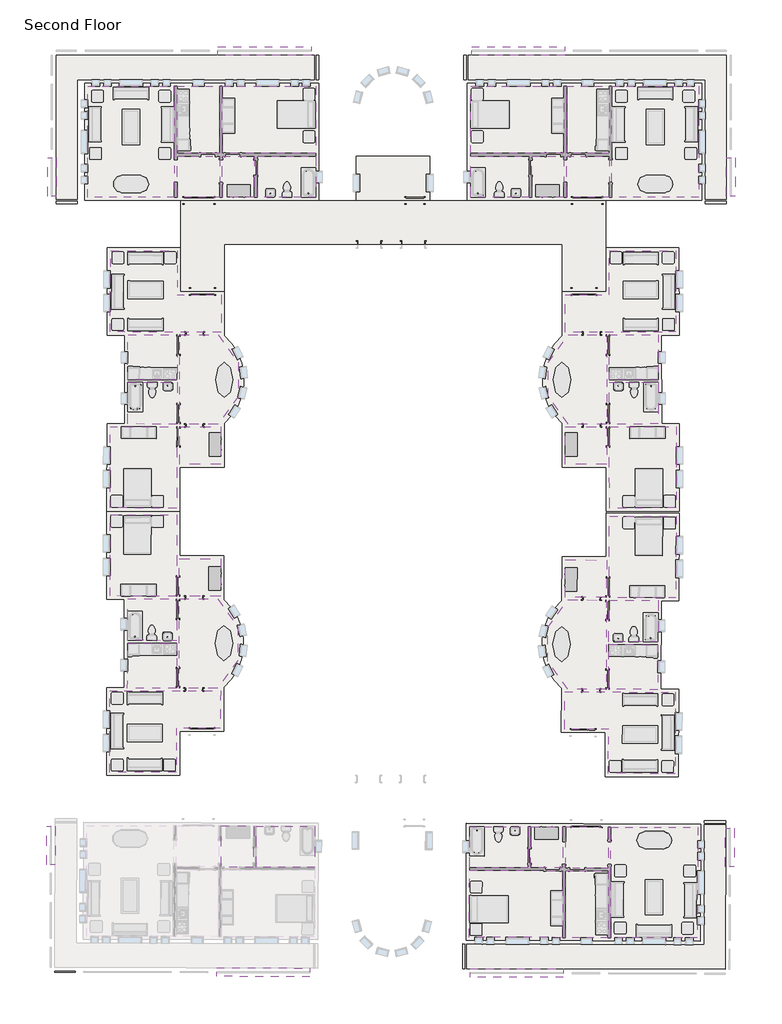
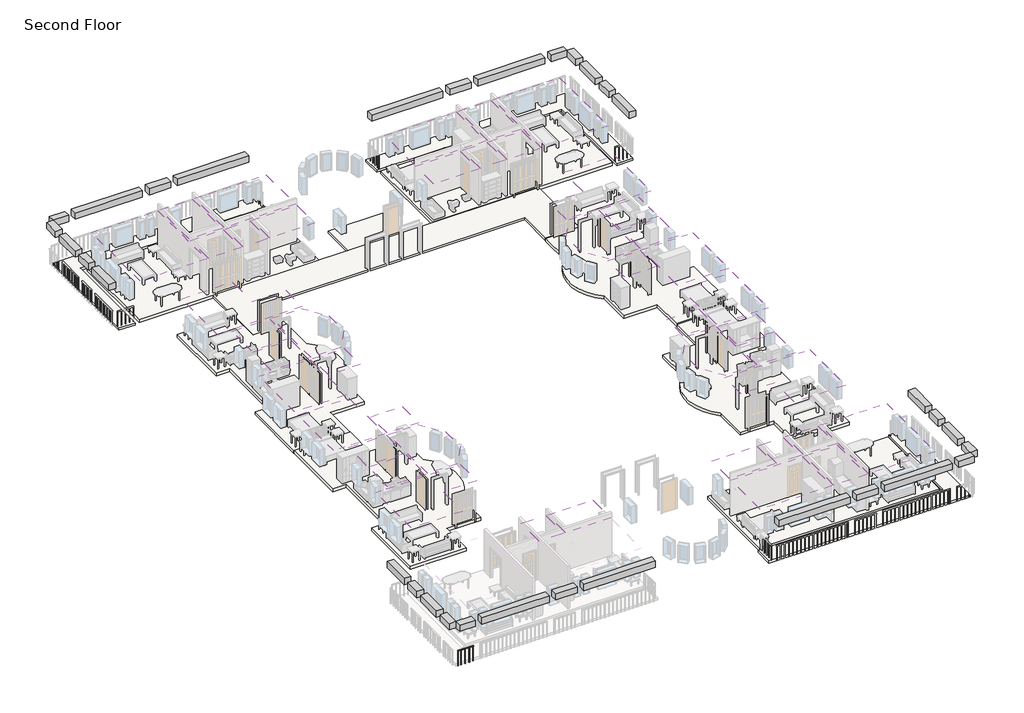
# One storey, part 3 of 8: 44 coverings, 12 slabs, 8 beams, 1 railing.
"""IFC4 building model written with IfcOpenShell, lengths in millimetres."""

from ifc_helpers import new_model, si_unit, point, frame, frame_2d, origin, place, context, project, spatial, polyline, circle_curve, trimmed, segment, composite_curve, outline, extrude, element, save

model = new_model("IFC4")

# Units and contexts
model_context = context("Model", 3, world=origin())
ifc_project = project(units=[si_unit("LENGTHUNIT", "METRE", prefix="MILLI")], contexts=[model_context])

# Site, building, storey
site = spatial("IfcSite", under=ifc_project)
building = spatial("IfcBuilding", under=site)
storey = spatial("IfcBuildingStorey", under=building, Name="Second Floor", Elevation=3048.0)

# Beams
placement = place(None, origin())
element("IfcBeam", 1, ObjectType="M_Concrete-Rectangular Beam : 450 x 450", at=placement, inside=storey, context=model_context, shape_type="SweptSolid", body=[
    extrude(outline(polyline([(-1643.3416203, 4481.1188386), (-1643.3416203, 4031.1188386), (-2693.3416203, 4031.1188386), (-2693.3416203, 4481.1188386), (-1643.3416203, 4481.1188386)])), frame((0.0, 0.0, 5646.0), z_axis=(0.0, 0.0, 1.0), x_axis=(1.0, 0.0, 0.0)), (0.0, 0.0, 1.0), 450.0),
    extrude(outline(polyline([(-14885.3416203, 4031.1188386), (-14885.3416203, 4481.1188386), (-10043.3416203, 4481.1188386), (-10043.3416203, 4031.1188386), (-14885.3416203, 4031.1188386)])), frame((0.0, 0.0, 5646.0), z_axis=(0.0, 0.0, 1.0), x_axis=(1.0, 0.0, 0.0)), (0.0, 0.0, 1.0), 450.0),
    extrude(outline(polyline([(-3143.3416203, 4481.1188386), (-3143.3416203, 4031.1188386), (-7693.3416203, 4031.1188386), (-7693.3416203, 4481.1188386), (-3143.3416203, 4481.1188386)])), frame((0.0, 0.0, 5646.0), z_axis=(0.0, 0.0, 1.0), x_axis=(1.0, 0.0, 0.0)), (0.0, 0.0, 1.0), 450.0),
    extrude(outline(polyline([(-8143.3416203, 4481.1188386), (-8143.3416203, 4031.1188386), (-9593.3416203, 4031.1188386), (-9593.3416203, 4481.1188386), (-8143.3416203, 4481.1188386)])), frame((0.0, 0.0, 5646.0), z_axis=(0.0, 0.0, 1.0), x_axis=(1.0, 0.0, 0.0)), (0.0, 0.0, 1.0), 450.0),
])
element("IfcBeam", 2, ObjectType="M_Concrete-Rectangular Beam : 450 x 450", at=placement, inside=storey, context=model_context, shape_type="SweptSolid", body=[
    extrude(outline(polyline([(-1193.3416203, -3289.8811614), (-1643.3416203, -3289.8811614), (-1643.3416203, -1295.3811614), (-1193.3416203, -1295.3811614), (-1193.3416203, -3289.8811614)])), frame((0.0, 0.0, 5646.0), z_axis=(0.0, 0.0, 1.0), x_axis=(1.0, 0.0, 0.0)), (0.0, 0.0, 1.0), 450.0),
    extrude(outline(polyline([(-1643.3416203, 4031.1188386), (-1193.3416203, 4031.1188386), (-1193.3416203, 2981.1188386), (-1643.3416203, 2981.1188386), (-1643.3416203, 4031.1188386)])), frame((0.0, 0.0, 5646.0), z_axis=(0.0, 0.0, 1.0), x_axis=(1.0, 0.0, 0.0)), (0.0, 0.0, 1.0), 450.0),
    extrude(outline(polyline([(-1643.3416203, 2531.1188386), (-1193.3416203, 2531.1188386), (-1193.3416203, 681.1188386), (-1643.3416203, 681.1188386), (-1643.3416203, 2531.1188386)])), frame((0.0, 0.0, 5646.0), z_axis=(0.0, 0.0, 1.0), x_axis=(1.0, 0.0, 0.0)), (0.0, 0.0, 1.0), 450.0),
    extrude(outline(polyline([(-1643.3416203, 231.1188386), (-1193.3416203, 231.1188386), (-1193.3416203, -845.3811614), (-1643.3416203, -845.3811614), (-1643.3416203, 231.1188386)])), frame((0.0, 0.0, 5646.0), z_axis=(0.0, 0.0, 1.0), x_axis=(1.0, 0.0, 0.0)), (0.0, 0.0, 1.0), 450.0),
])
element("IfcBeam", 3, ObjectType="M_Concrete-Rectangular Beam : 450 x 450", at=placement, inside=storey, context=model_context, shape_type="SweptSolid", body=[
    extrude(outline(polyline([(-36458.8416203, 4031.1188386), (-36458.8416203, 4481.1188386), (-35408.8416203, 4481.1188386), (-35408.8416203, 4031.1188386), (-36458.8416203, 4031.1188386)])), frame((0.0, 0.0, 5646.0), z_axis=(0.0, 0.0, 1.0), x_axis=(1.0, 0.0, 0.0)), (0.0, 0.0, 1.0), 450.0),
    extrude(outline(polyline([(-23216.8416203, 4481.1188386), (-23216.8416203, 4031.1188386), (-28058.8416203, 4031.1188386), (-28058.8416203, 4481.1188386), (-23216.8416203, 4481.1188386)])), frame((0.0, 0.0, 5646.0), z_axis=(0.0, 0.0, 1.0), x_axis=(1.0, 0.0, 0.0)), (0.0, 0.0, 1.0), 450.0),
    extrude(outline(polyline([(-34958.8416203, 4031.1188386), (-34958.8416203, 4481.1188386), (-30408.8416203, 4481.1188386), (-30408.8416203, 4031.1188386), (-34958.8416203, 4031.1188386)])), frame((0.0, 0.0, 5646.0), z_axis=(0.0, 0.0, 1.0), x_axis=(1.0, 0.0, 0.0)), (0.0, 0.0, 1.0), 450.0),
    extrude(outline(polyline([(-29958.8416203, 4031.1188386), (-29958.8416203, 4481.1188386), (-28508.8416203, 4481.1188386), (-28508.8416203, 4031.1188386), (-29958.8416203, 4031.1188386)])), frame((0.0, 0.0, 5646.0), z_axis=(0.0, 0.0, 1.0), x_axis=(1.0, 0.0, 0.0)), (0.0, 0.0, 1.0), 450.0),
])
element("IfcBeam", 4, ObjectType="M_Concrete-Rectangular Beam : 450 x 450", at=placement, inside=storey, context=model_context, shape_type="SweptSolid", body=[
    extrude(outline(polyline([(-36458.8416203, -3289.8811614), (-36908.8416203, -3289.8811614), (-36908.8416203, -1295.3811614), (-36458.8416203, -1295.3811614), (-36458.8416203, -3289.8811614)])), frame((0.0, 0.0, 5646.0), z_axis=(0.0, 0.0, 1.0), x_axis=(1.0, 0.0, 0.0)), (0.0, 0.0, 1.0), 450.0),
    extrude(outline(polyline([(-36458.8416203, 2981.1188386), (-36908.8416203, 2981.1188386), (-36908.8416203, 4031.1188386), (-36458.8416203, 4031.1188386), (-36458.8416203, 2981.1188386)])), frame((0.0, 0.0, 5646.0), z_axis=(0.0, 0.0, 1.0), x_axis=(1.0, 0.0, 0.0)), (0.0, 0.0, 1.0), 450.0),
    extrude(outline(polyline([(-36908.8416203, 2531.1188386), (-36458.8416203, 2531.1188386), (-36458.8416203, 681.1188386), (-36908.8416203, 681.1188386), (-36908.8416203, 2531.1188386)])), frame((0.0, 0.0, 5646.0), z_axis=(0.0, 0.0, 1.0), x_axis=(1.0, 0.0, 0.0)), (0.0, 0.0, 1.0), 450.0),
    extrude(outline(polyline([(-36908.8416203, 231.1188386), (-36458.8416203, 231.1188386), (-36458.8416203, -845.3811614), (-36908.8416203, -845.3811614), (-36908.8416203, 231.1188386)])), frame((0.0, 0.0, 5646.0), z_axis=(0.0, 0.0, 1.0), x_axis=(1.0, 0.0, 0.0)), (0.0, 0.0, 1.0), 450.0),
])
element("IfcBeam", 5, ObjectType="M_Concrete-Rectangular Beam : 450 x 450", at=placement, inside=storey, context=model_context, shape_type="SweptSolid", body=[
    extrude(outline(polyline([(-1712.0689607, -43451.2055858), (-1713.3716449, -43901.2037003), (-2763.3672453, -43898.1641037), (-2762.0645611, -43448.1659892), (-1712.0689607, -43451.2055858)])), frame((0.0, 0.0, 5646.0), z_axis=(0.0, 0.0, 1.0), x_axis=(1.0, 0.0, 0.0)), (0.0, 0.0, 1.0), 450.0),
    extrude(outline(polyline([(-14955.3161596, -43862.8700448), (-14954.0134754, -43412.8719303), (-10112.0337638, -43426.888813), (-10113.3364481, -43876.8869274), (-14955.3161596, -43862.8700448)])), frame((0.0, 0.0, 5646.0), z_axis=(0.0, 0.0, 1.0), x_axis=(1.0, 0.0, 0.0)), (0.0, 0.0, 1.0), 450.0),
    extrude(outline(polyline([(-3212.0626755, -43446.863305), (-3213.3653598, -43896.8614194), (-7763.3462948, -43883.6898341), (-7762.0436106, -43433.6917196), (-3212.0626755, -43446.863305)])), frame((0.0, 0.0, 5646.0), z_axis=(0.0, 0.0, 1.0), x_axis=(1.0, 0.0, 0.0)), (0.0, 0.0, 1.0), 450.0),
    extrude(outline(polyline([(-8212.041725, -43432.3890354), (-8213.3444093, -43882.3871498), (-9663.3383336, -43878.1896117), (-9662.0356494, -43428.1914972), (-8212.041725, -43432.3890354)])), frame((0.0, 0.0, 5646.0), z_axis=(0.0, 0.0, 1.0), x_axis=(1.0, 0.0, 0.0)), (0.0, 0.0, 1.0), 450.0),
])
element("IfcBeam", 6, ObjectType="M_Concrete-Rectangular Beam : 450 x 450", at=placement, inside=storey, context=model_context, shape_type="SweptSolid", body=[
    extrude(outline(polyline([(-1690.8757352, -36130.2362615), (-1240.8776207, -36131.5389458), (-1246.6514068, -38126.0305886), (-1696.6495213, -38124.7279044), (-1690.8757352, -36130.2362615)])), frame((0.0, 0.0, 5646.0), z_axis=(0.0, 0.0, 1.0), x_axis=(1.0, 0.0, 0.0)), (0.0, 0.0, 1.0), 450.0),
    extrude(outline(polyline([(-1709.0293641, -42401.2099854), (-1259.0312496, -42402.5126697), (-1262.0708462, -43452.5082701), (-1712.0689607, -43451.2055858), (-1709.0293641, -42401.2099854)])), frame((0.0, 0.0, 5646.0), z_axis=(0.0, 0.0, 1.0), x_axis=(1.0, 0.0, 0.0)), (0.0, 0.0, 1.0), 450.0),
    extrude(outline(polyline([(-1257.7285653, -41952.5145552), (-1707.7266798, -41951.211871), (-1702.3712001, -40101.2196227), (-1252.3730856, -40102.5223069), (-1257.7285653, -41952.5145552)])), frame((0.0, 0.0, 5646.0), z_axis=(0.0, 0.0, 1.0), x_axis=(1.0, 0.0, 0.0)), (0.0, 0.0, 1.0), 450.0),
    extrude(outline(polyline([(-1251.0704013, -39652.5241925), (-1701.0685158, -39651.2215082), (-1697.9522056, -38574.7260188), (-1247.9540911, -38576.0287031), (-1251.0704013, -39652.5241925)])), frame((0.0, 0.0, 5646.0), z_axis=(0.0, 0.0, 1.0), x_axis=(1.0, 0.0, 0.0)), (0.0, 0.0, 1.0), 450.0),
])
element("IfcBeam", 7, ObjectType="M_Concrete-Rectangular Beam : 450 x 450", at=placement, inside=storey, context=model_context, shape_type="SweptSolid", body=[
    extrude(outline(polyline([(-36528.7257646, -43800.4179138), (-36527.4230803, -43350.4197994), (-35477.4274799, -43353.459396), (-35478.7301642, -43803.4575104), (-36528.7257646, -43800.4179138)])), frame((0.0, 0.0, 5646.0), z_axis=(0.0, 0.0, 1.0), x_axis=(1.0, 0.0, 0.0)), (0.0, 0.0, 1.0), 450.0),
    extrude(outline(polyline([(-23285.4785656, -43388.7534549), (-23286.7812498, -43838.7515694), (-28128.7609614, -43824.7346867), (-28127.4582771, -43374.7365723), (-23285.4785656, -43388.7534549)])), frame((0.0, 0.0, 5646.0), z_axis=(0.0, 0.0, 1.0), x_axis=(1.0, 0.0, 0.0)), (0.0, 0.0, 1.0), 450.0),
    extrude(outline(polyline([(-35028.7320497, -43804.7601947), (-35027.4293654, -43354.7620803), (-30477.4484304, -43367.9336656), (-30478.7511147, -43817.93178), (-35028.7320497, -43804.7601947)])), frame((0.0, 0.0, 5646.0), z_axis=(0.0, 0.0, 1.0), x_axis=(1.0, 0.0, 0.0)), (0.0, 0.0, 1.0), 450.0),
    extrude(outline(polyline([(-30028.7530002, -43819.2344643), (-30027.4503159, -43369.2363498), (-28577.4563916, -43373.433888), (-28578.7590758, -43823.4320025), (-30028.7530002, -43819.2344643)])), frame((0.0, 0.0, 5646.0), z_axis=(0.0, 0.0, 1.0), x_axis=(1.0, 0.0, 0.0)), (0.0, 0.0, 1.0), 450.0),
])
element("IfcBeam", 8, ObjectType="M_Concrete-Rectangular Beam : 450 x 450", at=placement, inside=storey, context=model_context, shape_type="SweptSolid", body=[
    extrude(outline(polyline([(-36956.2279692, -36028.1477908), (-36506.2298548, -36029.4504751), (-36512.0036409, -38023.9421179), (-36962.0017554, -38022.6394337), (-36956.2279692, -36028.1477908)])), frame((0.0, 0.0, 5646.0), z_axis=(0.0, 0.0, 1.0), x_axis=(1.0, 0.0, 0.0)), (0.0, 0.0, 1.0), 450.0),
    extrude(outline(polyline([(-36974.3815981, -42299.1215147), (-36524.3834837, -42300.424199), (-36527.4230803, -43350.4197994), (-36977.4211948, -43349.1171151), (-36974.3815981, -42299.1215147)])), frame((0.0, 0.0, 5646.0), z_axis=(0.0, 0.0, 1.0), x_axis=(1.0, 0.0, 0.0)), (0.0, 0.0, 1.0), 450.0),
    extrude(outline(polyline([(-36523.0807994, -41850.4260845), (-36973.0789139, -41849.1234003), (-36967.7234341, -39999.1311519), (-36517.7253197, -40000.4338362), (-36523.0807994, -41850.4260845)])), frame((0.0, 0.0, 5646.0), z_axis=(0.0, 0.0, 1.0), x_axis=(1.0, 0.0, 0.0)), (0.0, 0.0, 1.0), 450.0),
    extrude(outline(polyline([(-36516.4226354, -39550.4357218), (-36966.4207499, -39549.1330375), (-36963.3044396, -38472.6375481), (-36513.3063252, -38473.9402324), (-36516.4226354, -39550.4357218)])), frame((0.0, 0.0, 5646.0), z_axis=(0.0, 0.0, 1.0), x_axis=(1.0, 0.0, 0.0)), (0.0, 0.0, 1.0), 450.0),
])

# Coverings
element("IfcCovering", 9, ObjectType="Plain", at=placement, inside=storey, context=model_context, shape_type="SweptSolid", body=[
    extrude(outline(polyline([(-14935.3416203, 2406.1188386), (-10086.8416203, 2406.1188386), (-10086.8416203, -1070.3811614), (-14935.3416203, -1070.3811614), (-14935.3416203, 2406.1188386)])), frame((0.0, 0.0, 5638.0), z_axis=(0.0, 0.0, 1.0), x_axis=(1.0, 0.0, 0.0)), (0.0, 0.0, 1.0), 57.0),
])
element("IfcCovering", 10, ObjectType="Plain", at=placement, inside=storey, context=model_context, shape_type="SweptSolid", body=[
    extrude(outline(polyline([(-9951.3416203, -1070.3811614), (-9951.3416203, 2406.1188386), (-7733.0916203, 2406.1188386), (-7733.0916203, -1070.3811614), (-9951.3416203, -1070.3811614)])), frame((0.0, 0.0, 5638.0), z_axis=(0.0, 0.0, 1.0), x_axis=(1.0, 0.0, 0.0)), (0.0, 0.0, 1.0), 57.0),
])
element("IfcCovering", 11, ObjectType="Plain", at=placement, inside=storey, context=model_context, shape_type="SweptSolid", body=[
    extrude(outline(polyline([(-7597.5916203, -3339.8811614), (-7597.5916203, 2406.1188386), (-3093.3416203, 2406.1188386), (-3093.3416203, -3339.8811614), (-7597.5916203, -3339.8811614)])), frame((0.0, 0.0, 5638.0), z_axis=(0.0, 0.0, 1.0), x_axis=(1.0, 0.0, 0.0)), (0.0, 0.0, 1.0), 57.0),
])
element("IfcCovering", 12, ObjectType="Plain", at=placement, inside=storey, context=model_context, shape_type="SweptSolid", body=[
    extrude(outline(polyline([(-7733.0916203, -3339.8811614), (-9951.3416203, -3339.8811614), (-9951.3416203, -1205.8811614), (-7733.0916203, -1205.8811614), (-7733.0916203, -3339.8811614)])), frame((0.0, 0.0, 5638.0), z_axis=(0.0, 0.0, 1.0), x_axis=(1.0, 0.0, 0.0)), (0.0, 0.0, 1.0), 57.0),
])
element("IfcCovering", 13, ObjectType="Plain", at=placement, inside=storey, context=model_context, shape_type="SweptSolid", body=[
    extrude(outline(polyline([(-11887.3416203, -1205.8811614), (-11887.3416203, -3339.8811614), (-14935.3416203, -3339.8811614), (-14935.3416203, -1205.8811614), (-11887.3416203, -1205.8811614)])), frame((0.0, 0.0, 5638.0), z_axis=(0.0, 0.0, 1.0), x_axis=(1.0, 0.0, 0.0)), (0.0, 0.0, 1.0), 57.0),
])
element("IfcCovering", 14, ObjectType="Plain", at=placement, inside=storey, context=model_context, shape_type="SweptSolid", body=[
    extrude(outline(polyline([(-10086.8416203, -3339.8811614), (-11751.8416203, -3339.8811614), (-11751.8416203, -1205.8811614), (-10086.8416203, -1205.8811614), (-10086.8416203, -3339.8811614)])), frame((0.0, 0.0, 5638.0), z_axis=(0.0, 0.0, 1.0), x_axis=(1.0, 0.0, 0.0)), (0.0, 0.0, 1.0), 57.0),
])
element("IfcCovering", 15, ObjectType="Plain", at=placement, inside=storey, context=model_context, shape_type="SweptSolid", body=[
    extrude(outline(polyline([(-7719.603401, -17382.7647995), (-7726.8533934, -17382.7752934), (-7729.9194088, -15264.5275123), (-5002.0722663, -15260.5791445), (-5002.0617724, -15267.829137), (-4262.662547, -15266.7589083), (-4256.5515039, -19488.7544857), (-7716.5478795, -19493.7625882), (-7719.603401, -17382.7647995)])), frame((0.0, 0.0, 5639.0), z_axis=(0.0, 0.0, 1.0), x_axis=(1.0, 0.0, 0.0)), (0.0, 0.0, 1.0), 57.0),
])
element("IfcCovering", 16, ObjectType="Plain", at=placement, inside=storey, context=model_context, shape_type="SweptSolid", body=[
    extrude(outline(polyline([(-7730.1155353, -15129.0276542), (-7733.2504483, -12963.179923), (-5180.4031225, -12959.4848553), (-5177.2682095, -15125.3325865), (-7730.1155353, -15129.0276542)])), frame((0.0, 0.0, 5639.0), z_axis=(0.0, 0.0, 1.0), x_axis=(1.0, 0.0, 0.0)), (0.0, 0.0, 1.0), 57.0),
])
element("IfcCovering", 17, ObjectType="Plain", at=placement, inside=storey, context=model_context, shape_type="SweptSolid", body=[
    extrude(outline(polyline([(-7733.4465749, -12827.680065), (-7736.8265375, -10492.5325111), (-5183.9792116, -10488.8374433), (-5180.599249, -12823.9849972), (-7733.4465749, -12827.680065)])), frame((0.0, 0.0, 5639.0), z_axis=(0.0, 0.0, 1.0), x_axis=(1.0, 0.0, 0.0)), (0.0, 0.0, 1.0), 57.0),
])
element("IfcCovering", 18, ObjectType="Plain", at=placement, inside=storey, context=model_context, shape_type="SweptSolid", body=[
    extrude(outline(polyline([(-10015.770277, -10360.3309807), (-10018.5829924, -8417.0830163), (-7732.585387, -8413.7741948), (-7735.8942085, -6127.7765894), (-4275.8978329, -6122.7684869), (-4269.7867899, -10344.7640643), (-5009.1860154, -10345.8342929), (-5009.1755215, -10353.0842853), (-10015.770277, -10360.3309807)])), frame((0.0, 0.0, 5639.0), z_axis=(0.0, 0.0, 1.0), x_axis=(1.0, 0.0, 0.0)), (0.0, 0.0, 1.0), 57.0),
])
element("IfcCovering", 19, ObjectType="Plain", at=placement, inside=storey, context=model_context, shape_type="SweptSolid", body=[
    extrude(outline(composite_curve([segment(polyline([(-9871.5226854, -10495.6223343), (-7872.3263955, -10492.7286377), (-7865.6153934, -15129.2237808), (-9864.8116833, -15132.1174775)]), True, "CONTINUOUS"), segment(trimmed(circle_curve(frame_2d((-8171.1580789, -12811.413604)), 2873.0), [point((-9864.8116833, -15132.1174775))], [point((-9871.5226854, -10495.6223343))], False, "CARTESIAN"), True, "CONTINUOUS")], self_intersect=False)), frame((0.0, 0.0, 5639.0), z_axis=(0.0, 0.0, 1.0), x_axis=(1.0, 0.0, 0.0)), (0.0, 0.0, 1.0), 57.0),
])
element("IfcCovering", 20, ObjectType="Plain", at=placement, inside=storey, context=model_context, shape_type="SweptSolid", body=[
    extrude(outline(polyline([(-10008.6670217, -15267.8258399), (-7865.4192668, -15264.7236389), (-7862.6065515, -17207.9716033), (-10005.8543064, -17211.0738043), (-10008.6670217, -15267.8258399)])), frame((0.0, 0.0, 5639.0), z_axis=(0.0, 0.0, 1.0), x_axis=(1.0, 0.0, 0.0)), (0.0, 0.0, 1.0), 57.0),
])
element("IfcCovering", 21, ObjectType="Plain", at=placement, inside=storey, context=model_context, shape_type="SweptSolid", body=[
    extrude(outline(polyline([(-22978.8416203, 2406.1188386), (-22978.8416203, -1070.3811614), (-27827.3416203, -1070.3811614), (-27827.3416203, 2406.1188386), (-22978.8416203, 2406.1188386)])), frame((0.0, 0.0, 5638.0), z_axis=(0.0, 0.0, 1.0), x_axis=(1.0, 0.0, 0.0)), (0.0, 0.0, 1.0), 57.0),
])
element("IfcCovering", 22, ObjectType="Plain", at=placement, inside=storey, context=model_context, shape_type="SweptSolid", body=[
    extrude(outline(polyline([(-27962.8416203, -1070.3811614), (-30181.0916203, -1070.3811614), (-30181.0916203, 2406.1188386), (-27962.8416203, 2406.1188386), (-27962.8416203, -1070.3811614)])), frame((0.0, 0.0, 5638.0), z_axis=(0.0, 0.0, 1.0), x_axis=(1.0, 0.0, 0.0)), (0.0, 0.0, 1.0), 57.0),
])
element("IfcCovering", 23, ObjectType="Plain", at=placement, inside=storey, context=model_context, shape_type="SweptSolid", body=[
    extrude(outline(polyline([(-30316.5916203, -3339.8811614), (-34820.8416203, -3339.8811614), (-34820.8416203, 2406.1188386), (-30316.5916203, 2406.1188386), (-30316.5916203, -3339.8811614)])), frame((0.0, 0.0, 5638.0), z_axis=(0.0, 0.0, 1.0), x_axis=(1.0, 0.0, 0.0)), (0.0, 0.0, 1.0), 57.0),
])
element("IfcCovering", 24, ObjectType="Plain", at=placement, inside=storey, context=model_context, shape_type="SweptSolid", body=[
    extrude(outline(polyline([(-30181.0916203, -3339.8811614), (-30181.0916203, -1205.8811614), (-27962.8416203, -1205.8811614), (-27962.8416203, -3339.8811614), (-30181.0916203, -3339.8811614)])), frame((0.0, 0.0, 5638.0), z_axis=(0.0, 0.0, 1.0), x_axis=(1.0, 0.0, 0.0)), (0.0, 0.0, 1.0), 57.0),
])
element("IfcCovering", 25, ObjectType="Plain", at=placement, inside=storey, context=model_context, shape_type="SweptSolid", body=[
    extrude(outline(polyline([(-26026.8416203, -1205.8811614), (-22978.8416203, -1205.8811614), (-22978.8416203, -3339.8811614), (-26026.8416203, -3339.8811614), (-26026.8416203, -1205.8811614)])), frame((0.0, 0.0, 5638.0), z_axis=(0.0, 0.0, 1.0), x_axis=(1.0, 0.0, 0.0)), (0.0, 0.0, 1.0), 57.0),
])
element("IfcCovering", 26, ObjectType="Plain", at=placement, inside=storey, context=model_context, shape_type="SweptSolid", body=[
    extrude(outline(polyline([(-27827.3416203, -3339.8811614), (-27827.3416203, -1205.8811614), (-26162.3416203, -1205.8811614), (-26162.3416203, -3339.8811614), (-27827.3416203, -3339.8811614)])), frame((0.0, 0.0, 5638.0), z_axis=(0.0, 0.0, 1.0), x_axis=(1.0, 0.0, 0.0)), (0.0, 0.0, 1.0), 57.0),
])
element("IfcCovering", 27, ObjectType="Plain", at=placement, inside=storey, context=model_context, shape_type="SweptSolid", body=[
    extrude(outline(polyline([(-30194.5798396, -17382.7647995), (-30197.6353611, -19493.7625882), (-33657.6317367, -19488.7544857), (-33651.5206937, -15266.7589083), (-32912.1214682, -15267.829137), (-32912.1109744, -15260.5791445), (-30184.2638319, -15264.5275123), (-30187.3298472, -17382.7752934), (-30194.5798396, -17382.7647995)])), frame((0.0, 0.0, 5639.0), z_axis=(0.0, 0.0, 1.0), x_axis=(1.0, 0.0, 0.0)), (0.0, 0.0, 1.0), 57.0),
])
element("IfcCovering", 28, ObjectType="Plain", at=placement, inside=storey, context=model_context, shape_type="SweptSolid", body=[
    extrude(outline(polyline([(-30184.0677053, -15129.0276542), (-32736.9150311, -15125.3325865), (-32733.7801182, -12959.4848553), (-30180.9327923, -12963.179923), (-30184.0677053, -15129.0276542)])), frame((0.0, 0.0, 5639.0), z_axis=(0.0, 0.0, 1.0), x_axis=(1.0, 0.0, 0.0)), (0.0, 0.0, 1.0), 57.0),
])
element("IfcCovering", 29, ObjectType="Plain", at=placement, inside=storey, context=model_context, shape_type="SweptSolid", body=[
    extrude(outline(polyline([(-30180.7366658, -12827.680065), (-32733.5839916, -12823.9849972), (-32730.204029, -10488.8374433), (-30177.3567032, -10492.5325111), (-30180.7366658, -12827.680065)])), frame((0.0, 0.0, 5639.0), z_axis=(0.0, 0.0, 1.0), x_axis=(1.0, 0.0, 0.0)), (0.0, 0.0, 1.0), 57.0),
])
element("IfcCovering", 30, ObjectType="Plain", at=placement, inside=storey, context=model_context, shape_type="SweptSolid", body=[
    extrude(outline(polyline([(-27898.4129637, -10360.3309807), (-32905.0077191, -10353.0842853), (-32904.9972253, -10345.8342929), (-33644.3964507, -10344.7640643), (-33638.2854077, -6122.7684869), (-30178.2890322, -6127.7765894), (-30181.5978537, -8413.7741948), (-27895.6002483, -8417.0830163), (-27898.4129637, -10360.3309807)])), frame((0.0, 0.0, 5639.0), z_axis=(0.0, 0.0, 1.0), x_axis=(1.0, 0.0, 0.0)), (0.0, 0.0, 1.0), 57.0),
])
element("IfcCovering", 31, ObjectType="Plain", at=placement, inside=storey, context=model_context, shape_type="SweptSolid", body=[
    extrude(outline(composite_curve([segment(trimmed(circle_curve(frame_2d((-29743.0251618, -12811.413604)), 2873.0), [point((-28042.6605552, -10495.6223343))], [point((-28049.3715573, -15132.1174775))], False, "CARTESIAN"), True, "CONTINUOUS"), segment(polyline([(-28049.3715573, -15132.1174775), (-30048.5678472, -15129.2237808), (-30041.8568451, -10492.7286377), (-28042.6605552, -10495.6223343)]), True, "CONTINUOUS")], self_intersect=False)), frame((0.0, 0.0, 5639.0), z_axis=(0.0, 0.0, 1.0), x_axis=(1.0, 0.0, 0.0)), (0.0, 0.0, 1.0), 57.0),
])
element("IfcCovering", 32, ObjectType="Plain", at=placement, inside=storey, context=model_context, shape_type="SweptSolid", body=[
    extrude(outline(polyline([(-27905.5162189, -15267.8258399), (-27908.3289343, -17211.0738043), (-30051.5766892, -17207.9716033), (-30048.7639738, -15264.7236389), (-27905.5162189, -15267.8258399)])), frame((0.0, 0.0, 5639.0), z_axis=(0.0, 0.0, 1.0), x_axis=(1.0, 0.0, 0.0)), (0.0, 0.0, 1.0), 57.0),
])
element("IfcCovering", 33, ObjectType="Plain", at=placement, inside=storey, context=model_context, shape_type="SweptSolid", body=[
    extrude(outline(polyline([(-14999.3091283, -41787.7339965), (-14989.2451686, -38311.2485634), (-10140.7654843, -38325.2842626), (-10150.829444, -41801.7696957), (-14999.3091283, -41787.7339965)])), frame((0.0, 0.0, 5638.0), z_axis=(0.0, 0.0, 1.0), x_axis=(1.0, 0.0, 0.0)), (0.0, 0.0, 1.0), 57.0),
])
element("IfcCovering", 34, ObjectType="Plain", at=placement, inside=storey, context=model_context, shape_type="SweptSolid", body=[
    extrude(outline(polyline([(-10005.2660521, -38325.6765153), (-7787.0253468, -38332.098025), (-7797.0893064, -41808.5834581), (-10015.3300117, -41802.1619484), (-10005.2660521, -38325.6765153)])), frame((0.0, 0.0, 5638.0), z_axis=(0.0, 0.0, 1.0), x_axis=(1.0, 0.0, 0.0)), (0.0, 0.0, 1.0), 57.0),
])
element("IfcCovering", 35, ObjectType="Plain", at=placement, inside=storey, context=model_context, shape_type="SweptSolid", body=[
    extrude(outline(polyline([(-7644.9560436, -36062.9997871), (-3140.7249168, -36076.0389329), (-3157.3587474, -41822.0148566), (-7661.5898742, -41808.9757108), (-7644.9560436, -36062.9997871)])), frame((0.0, 0.0, 5638.0), z_axis=(0.0, 0.0, 1.0), x_axis=(1.0, 0.0, 0.0)), (0.0, 0.0, 1.0), 57.0),
])
element("IfcCovering", 36, ObjectType="Plain", at=placement, inside=storey, context=model_context, shape_type="SweptSolid", body=[
    extrude(outline(polyline([(-7780.4554758, -36062.6075344), (-7786.6330941, -38196.5985928), (-10004.8737994, -38190.1770831), (-9998.6961811, -36056.1860247), (-7780.4554758, -36062.6075344)])), frame((0.0, 0.0, 5638.0), z_axis=(0.0, 0.0, 1.0), x_axis=(1.0, 0.0, 0.0)), (0.0, 0.0, 1.0), 57.0),
])
element("IfcCovering", 37, ObjectType="Plain", at=placement, inside=storey, context=model_context, shape_type="SweptSolid", body=[
    extrude(outline(polyline([(-11940.8656874, -38184.5726459), (-14988.8529159, -38175.7491311), (-14982.6752977, -36041.7580728), (-11934.6880691, -36050.5815875), (-11940.8656874, -38184.5726459)])), frame((0.0, 0.0, 5638.0), z_axis=(0.0, 0.0, 1.0), x_axis=(1.0, 0.0, 0.0)), (0.0, 0.0, 1.0), 57.0),
])
element("IfcCovering", 38, ObjectType="Plain", at=placement, inside=storey, context=model_context, shape_type="SweptSolid", body=[
    extrude(outline(polyline([(-10134.1956134, -36055.793772), (-10140.3732316, -38189.7848304), (-11805.3662551, -38184.9648986), (-11799.1886369, -36050.9738403), (-10134.1956134, -36055.793772)])), frame((0.0, 0.0, 5638.0), z_axis=(0.0, 0.0, 1.0), x_axis=(1.0, 0.0, 0.0)), (0.0, 0.0, 1.0), 57.0),
])
element("IfcCovering", 39, ObjectType="Plain", at=placement, inside=storey, context=model_context, shape_type="SweptSolid", body=[
    extrude(outline(polyline([(-7726.3152164, -22019.8217838), (-7717.1486774, -19908.8416857), (-4257.1812973, -19923.8659512), (-4275.5143752, -24145.8261474), (-5014.9074043, -24142.6154706), (-5014.9388858, -24149.8654022), (-7742.7631684, -24138.020332), (-7733.565148, -22019.7903023), (-7726.3152164, -22019.8217838)])), frame((0.0, 0.0, 5639.0), z_axis=(0.0, 0.0, 1.0), x_axis=(1.0, 0.0, 0.0)), (0.0, 0.0, 1.0), 57.0),
])
element("IfcCovering", 40, ObjectType="Plain", at=placement, inside=storey, context=model_context, shape_type="SweptSolid", body=[
    extrude(outline(polyline([(-7743.3515464, -24273.5190546), (-5190.525614, -24284.6042269), (-5199.9303266, -26450.4338079), (-7752.756259, -26439.3486356), (-7743.3515464, -24273.5190546)])), frame((0.0, 0.0, 5639.0), z_axis=(0.0, 0.0, 1.0), x_axis=(1.0, 0.0, 0.0)), (0.0, 0.0, 1.0), 57.0),
])
element("IfcCovering", 41, ObjectType="Plain", at=placement, inside=storey, context=model_context, shape_type="SweptSolid", body=[
    extrude(outline(polyline([(-7753.3446371, -26574.8473581), (-5200.5187046, -26585.9325305), (-5210.6585641, -28921.0605153), (-7763.4844965, -28909.975343), (-7753.3446371, -26574.8473581)])), frame((0.0, 0.0, 5639.0), z_axis=(0.0, 0.0, 1.0), x_axis=(1.0, 0.0, 0.0)), (0.0, 0.0, 1.0), 57.0),
])
element("IfcCovering", 42, ObjectType="Plain", at=placement, inside=storey, context=model_context, shape_type="SweptSolid", body=[
    extrude(outline(polyline([(-10042.8013912, -29035.5791103), (-5036.248592, -29057.3191357), (-5036.2800734, -29064.5690674), (-4296.8870443, -29067.7797442), (-4315.2201221, -33289.7399404), (-7775.1875022, -33274.7156749), (-7765.2610655, -30988.7372266), (-10051.2395137, -30978.8107899), (-10042.8013912, -29035.5791103)])), frame((0.0, 0.0, 5639.0), z_axis=(0.0, 0.0, 1.0), x_axis=(1.0, 0.0, 0.0)), (0.0, 0.0, 1.0), 57.0),
])
element("IfcCovering", 43, ObjectType="Plain", at=placement, inside=storey, context=model_context, shape_type="SweptSolid", body=[
    extrude(outline(composite_curve([segment(trimmed(circle_curve(frame_2d((-8191.1013961, -26589.84664)), 2873.0), [point((-9898.1627553, -28900.7058992))], [point((-9878.0298052, -24264.2496108))], False, "CARTESIAN"), True, "CONTINUOUS"), segment(polyline([(-9878.0298052, -24264.2496108), (-7878.850269, -24272.9306765), (-7898.9832191, -28909.3869649), (-9898.1627553, -28900.7058992)]), True, "CONTINUOUS")], self_intersect=False)), frame((0.0, 0.0, 5639.0), z_axis=(0.0, 0.0, 1.0), x_axis=(1.0, 0.0, 0.0)), (0.0, 0.0, 1.0), 57.0),
])
element("IfcCovering", 44, ObjectType="Plain", at=placement, inside=storey, context=model_context, shape_type="SweptSolid", body=[
    extrude(outline(polyline([(-10021.491685, -24128.1253768), (-10013.0535624, -22184.8936972), (-7869.8237684, -22194.2002744), (-7878.2618909, -24137.431954), (-10021.491685, -24128.1253768)])), frame((0.0, 0.0, 5639.0), z_axis=(0.0, 0.0, 1.0), x_axis=(1.0, 0.0, 0.0)), (0.0, 0.0, 1.0), 57.0),
])
element("IfcCovering", 45, ObjectType="Plain", at=placement, inside=storey, context=model_context, shape_type="SweptSolid", body=[
    extrude(outline(polyline([(-26080.3064415, -38143.640859), (-26074.1288232, -36009.6498006), (-23026.1415946, -36018.4733154), (-23032.3192129, -38152.4643737), (-26080.3064415, -38143.640859)])), frame((0.0, 0.0, 5638.0), z_axis=(0.0, 0.0, 1.0), x_axis=(1.0, 0.0, 0.0)), (0.0, 0.0, 1.0), 57.0),
])
element("IfcCovering", 46, ObjectType="Plain", at=placement, inside=storey, context=model_context, shape_type="SweptSolid", body=[
    extrude(outline(polyline([(-27874.6212789, -36004.4376162), (-26209.6282554, -36009.2575479), (-26215.8058737, -38143.2486063), (-27880.7988972, -38138.4286745), (-27874.6212789, -36004.4376162)])), frame((0.0, 0.0, 5638.0), z_axis=(0.0, 0.0, 1.0), x_axis=(1.0, 0.0, 0.0)), (0.0, 0.0, 1.0), 57.0),
])
element("IfcCovering", 47, ObjectType="Plain", at=placement, inside=storey, context=model_context, shape_type="SweptSolid", body=[
    extrude(outline(polyline([(-30201.1974826, -21954.7600102), (-30193.9474902, -21954.7705041), (-30197.0135056, -24073.0182852), (-32924.8606481, -24069.0699174), (-32924.8501542, -24061.819925), (-33664.2493797, -24060.7496964), (-33658.1383367, -19838.7541191), (-30198.1419611, -19843.7622216), (-30201.1974826, -21954.7600102)])), frame((0.0, 0.0, 5639.0), z_axis=(0.0, 0.0, 1.0), x_axis=(1.0, 0.0, 0.0)), (0.0, 0.0, 1.0), 57.0),
])
element("IfcCovering", 48, ObjectType="Plain", at=placement, inside=storey, context=model_context, shape_type="SweptSolid", body=[
    extrude(outline(polyline([(-30197.2096321, -24208.5181432), (-30200.3445451, -26374.3658745), (-32753.1918709, -26370.6708067), (-32750.056958, -24204.8230755), (-30197.2096321, -24208.5181432)])), frame((0.0, 0.0, 5639.0), z_axis=(0.0, 0.0, 1.0), x_axis=(1.0, 0.0, 0.0)), (0.0, 0.0, 1.0), 57.0),
])
element("IfcCovering", 49, ObjectType="Plain", at=placement, inside=storey, context=model_context, shape_type="SweptSolid", body=[
    extrude(outline(polyline([(-30200.5406716, -26509.8657325), (-30203.9206342, -28845.0132864), (-32756.7679601, -28841.3182186), (-32753.3879975, -26506.1706647), (-30200.5406716, -26509.8657325)])), frame((0.0, 0.0, 5639.0), z_axis=(0.0, 0.0, 1.0), x_axis=(1.0, 0.0, 0.0)), (0.0, 0.0, 1.0), 57.0),
])
element("IfcCovering", 50, ObjectType="Plain", at=placement, inside=storey, context=model_context, shape_type="SweptSolid", body=[
    extrude(outline(polyline([(-27925.3691479, -28983.8114721), (-27928.1818632, -30927.0594365), (-30214.1794686, -30923.750615), (-30217.4882901, -33209.7482204), (-33677.4846656, -33204.7401178), (-33671.3736226, -28982.7445405), (-32931.9743972, -28983.8147691), (-32931.9639033, -28976.5647767), (-27925.3691479, -28983.8114721)])), frame((0.0, 0.0, 5639.0), z_axis=(0.0, 0.0, 1.0), x_axis=(1.0, 0.0, 0.0)), (0.0, 0.0, 1.0), 57.0),
])
element("IfcCovering", 51, ObjectType="Plain", at=placement, inside=storey, context=model_context, shape_type="SweptSolid", body=[
    extrude(outline(composite_curve([segment(polyline([(-28069.2244863, -28848.1031096), (-30068.4207762, -28845.209413), (-30061.7097741, -24208.7142698), (-28062.5134842, -24211.6079665)]), True, "CONTINUOUS"), segment(trimmed(circle_curve(frame_2d((-29762.8780907, -26527.3992362)), 2873.0), [point((-28062.5134842, -24211.6079665))], [point((-28069.2244863, -28848.1031096))], False, "CARTESIAN"), True, "CONTINUOUS")], self_intersect=False)), frame((0.0, 0.0, 5639.0), z_axis=(0.0, 0.0, 1.0), x_axis=(1.0, 0.0, 0.0)), (0.0, 0.0, 1.0), 57.0),
])
element("IfcCovering", 52, ObjectType="Plain", at=placement, inside=storey, context=model_context, shape_type="SweptSolid", body=[
    extrude(outline(polyline([(-27918.2658926, -24076.3166128), (-30061.5136475, -24073.2144117), (-30058.7009321, -22129.9664473), (-27915.4531772, -22133.0686484), (-27918.2658926, -24076.3166128)])), frame((0.0, 0.0, 5639.0), z_axis=(0.0, 0.0, 1.0), x_axis=(1.0, 0.0, 0.0)), (0.0, 0.0, 1.0), 57.0),
])

# Railing
element("IfcRailing", 53, ObjectType="1100mm", at=placement, inside=storey, context=model_context, shape_type="SweptSolid", body=[
    extrude(outline(polyline([(-35478.0064507, -43553.458558), (-35478.1511934, -43603.4583485), (-36528.1467938, -43600.4187519), (-36528.0020511, -43550.4189614), (-35478.0064507, -43553.458558)])), frame((0.0, 0.0, 4098.0), z_axis=(0.0, 0.0, 1.0), x_axis=(1.0, 0.0, 0.0)), (0.0, 0.0, 1.0), 50.0),
    extrude(outline(polyline([(-36290.5392319, -43563.6064368), (-36290.6116033, -43588.606332), (-36315.6114985, -43588.5339607), (-36315.5391272, -43563.5340654), (-36290.5392319, -43563.6064368)])), frame((0.0, 0.0, 3048.0), z_axis=(0.0, 0.0, 1.0), x_axis=(1.0, 0.0, 0.0)), (0.0, 0.0, 1.0), 1050.0),
    extrude(outline(polyline([(-36015.5403842, -43564.4025216), (-36015.6127555, -43589.4024169), (-36040.6126508, -43589.3300455), (-36040.5402794, -43564.3301503), (-36015.5403842, -43564.4025216)])), frame((0.0, 0.0, 3048.0), z_axis=(0.0, 0.0, 1.0), x_axis=(1.0, 0.0, 0.0)), (0.0, 0.0, 1.0), 1050.0),
    extrude(outline(polyline([(-35740.5415365, -43565.1986064), (-35740.6139078, -43590.1985017), (-35765.6138031, -43590.1261303), (-35765.5414317, -43565.1262351), (-35740.5415365, -43565.1986064)])), frame((0.0, 0.0, 3048.0), z_axis=(0.0, 0.0, 1.0), x_axis=(1.0, 0.0, 0.0)), (0.0, 0.0, 1.0), 1050.0),
    extrude(outline(polyline([(-36503.0383415, -43562.9912803), (-36503.1107129, -43587.9911756), (-36528.1106081, -43587.9188042), (-36528.0382368, -43562.918909), (-36503.0383415, -43562.9912803)])), frame((0.0, 0.0, 3048.0), z_axis=(0.0, 0.0, 1.0), x_axis=(1.0, 0.0, 0.0)), (0.0, 0.0, 1.0), 1050.0),
    extrude(outline(polyline([(-35478.0426364, -43565.9585056), (-35478.1150077, -43590.9584008), (-35503.114903, -43590.8860295), (-35503.0425316, -43565.8861342), (-35478.0426364, -43565.9585056)])), frame((0.0, 0.0, 3048.0), z_axis=(0.0, 0.0, 1.0), x_axis=(1.0, 0.0, 0.0)), (0.0, 0.0, 1.0), 1050.0),
])

# Slabs
element("IfcSlab", 54, ObjectType="160mm Concrete With 50mm Metal Deck", at=placement, inside=storey, context=model_context, shape_type="SweptSolid", body=[
    extrude(outline(polyline([(-2928.3416203, 2571.1188386), (-2928.3416203, -3504.8811614), (-15100.3416203, -3504.8811614), (-15100.3416203, 2571.1188386), (-2928.3416203, 2571.1188386)])), frame((0.0, 0.0, 2838.0), z_axis=(0.0, 0.0, 1.0), x_axis=(1.0, 0.0, 0.0)), (0.0, 0.0, 1.0), 210.0),
])
element("IfcSlab", 55, ObjectType="160mm Concrete With 50mm Metal Deck", at=placement, inside=storey, context=model_context, shape_type="SweptSolid", body=[
    extrude(outline(composite_curve([segment(polyline([(-4091.3128511, -19653.5154871), (-7881.308881, -19659.0012411), (-7884.6177025, -17373.0036357), (-10170.6153078, -17376.3124572), (-10173.9161954, -15095.7962179)]), True, "CONTINUOUS"), segment(trimmed(circle_curve(frame_2d((-8171.1580789, -12811.413604)), 3038.0), [point((-10173.9161954, -15095.7962179))], [point((-10180.5207576, -10532.8382541))], False, "CARTESIAN"), True, "CONTINUOUS"), segment(polyline([(-10180.5207576, -10532.8382541), (-10183.8216452, -8252.3220148), (-7897.8240398, -8249.0131933), (-7901.1328613, -5963.015588), (-4111.1368315, -5957.5298341), (-4104.548137, -10509.5250657), (-5018.9471792, -10510.8485943), (-5012.3005876, -15102.8437841), (-4097.9015455, -15101.5202555), (-4091.3128511, -19653.5154871)]), True, "CONTINUOUS")], self_intersect=False)), frame((0.0, 0.0, 2838.0), z_axis=(0.0, 0.0, 1.0), x_axis=(1.0, 0.0, 0.0)), (0.0, 0.0, 1.0), 210.0),
])
element("IfcSlab", 56, ObjectType="160mm Concrete With 50mm Metal Deck", at=placement, inside=storey, context=model_context, shape_type="SweptSolid", body=[
    extrude(outline(polyline([(-34985.8416203, 2571.1188386), (-22813.8416203, 2571.1188386), (-22813.8416203, -3504.8811614), (-34985.8416203, -3504.8811614), (-34985.8416203, 2571.1188386)])), frame((0.0, 0.0, 2838.0), z_axis=(0.0, 0.0, 1.0), x_axis=(1.0, 0.0, 0.0)), (0.0, 0.0, 1.0), 210.0),
])
element("IfcSlab", 57, ObjectType="160mm Concrete With 50mm Metal Deck", at=placement, inside=storey, context=model_context, shape_type="SweptSolid", body=[
    extrude(outline(composite_curve([segment(polyline([(-33822.8703896, -19653.5154871), (-33816.2816951, -15101.5202555), (-32901.882653, -15102.8437841), (-32895.2360615, -10510.8485943), (-33809.6351036, -10509.5250657), (-33803.0464092, -5957.5298341), (-30013.0503793, -5963.015588), (-30016.3592008, -8249.0131933), (-27730.3615954, -8252.3220148), (-27733.662483, -10532.8382541)]), True, "CONTINUOUS"), segment(trimmed(circle_curve(frame_2d((-29743.0251618, -12811.413604)), 3038.0), [point((-27733.662483, -10532.8382541))], [point((-27740.2670452, -15095.7962179))], False, "CARTESIAN"), True, "CONTINUOUS"), segment(polyline([(-27740.2670452, -15095.7962179), (-27743.5679328, -17376.3124572), (-30029.5655382, -17373.0036357), (-30032.8743597, -19659.0012411), (-33822.8703896, -19653.5154871)]), True, "CONTINUOUS")], self_intersect=False)), frame((0.0, 0.0, 2838.0), z_axis=(0.0, 0.0, 1.0), x_axis=(1.0, 0.0, 0.0)), (0.0, 0.0, 1.0), 210.0),
])
element("IfcSlab", 58, ObjectType="160mm Concrete With 50mm Metal Deck", at=placement, inside=storey, context=model_context, shape_type="SweptSolid", body=[
    extrude(outline(polyline([(-2992.8370897, -41987.4918161), (-15164.7860878, -41952.2556543), (-15147.1969554, -35876.2811133), (-2975.2479573, -35911.5172751), (-2992.8370897, -41987.4918161)])), frame((0.0, 0.0, 2838.0), z_axis=(0.0, 0.0, 1.0), x_axis=(1.0, 0.0, 0.0)), (0.0, 0.0, 1.0), 210.0),
])
element("IfcSlab", 59, ObjectType="160mm Concrete With 50mm Metal Deck", at=placement, inside=storey, context=model_context, shape_type="SweptSolid", body=[
    extrude(outline(composite_curve([segment(polyline([(-4091.4663778, -19759.5839819), (-4111.2324058, -24311.541067), (-5025.6237851, -24307.5704923), (-5045.5635041, -28899.5272002), (-4131.1721248, -28903.4977749), (-4150.9381528, -33455.45486), (-7940.9024218, -33438.9976442), (-7930.975985, -31153.0191959), (-10216.9544333, -31143.0927592), (-10207.0517981, -28862.5956311)]), True, "CONTINUOUS"), segment(trimmed(circle_curve(frame_2d((-8191.1013961, -26589.84664)), 3038.0), [point((-10207.0517981, -28862.5956311))], [point((-10187.2381669, -24299.6759058))], False, "CARTESIAN"), True, "CONTINUOUS"), segment(polyline([(-10187.2381669, -24299.6759058), (-10177.3355318, -22019.1787777), (-7891.3570835, -22029.1052144), (-7881.4306468, -19743.1267661), (-4091.4663778, -19759.5839819)]), True, "CONTINUOUS")], self_intersect=False)), frame((0.0, 0.0, 2838.0), z_axis=(0.0, 0.0, 1.0), x_axis=(1.0, 0.0, 0.0)), (0.0, 0.0, 1.0), 210.0),
])
element("IfcSlab", 60, ObjectType="160mm Concrete With 50mm Metal Deck", at=placement, inside=storey, context=model_context, shape_type="SweptSolid", body=[
    extrude(outline(composite_curve([segment(polyline([(-33822.8993381, -19673.5154662), (-30032.9033083, -19679.0012201), (-30036.2121297, -21964.9988255), (-27750.2145244, -21968.307647), (-27753.515412, -24248.8238862)]), True, "CONTINUOUS"), segment(trimmed(circle_curve(frame_2d((-29762.8780907, -26527.3992362)), 3038.0), [point((-27753.515412, -24248.8238862))], [point((-27760.1199742, -28811.7818501))], False, "CARTESIAN"), True, "CONTINUOUS"), segment(polyline([(-27760.1199742, -28811.7818501), (-27763.4208618, -31092.2980893), (-30049.4184671, -31088.9892679), (-30052.7272886, -33374.9868732), (-33842.7233185, -33369.5011193), (-33836.1346241, -28817.5058876), (-32921.7355819, -28818.8294162), (-32915.0889904, -24226.8342265), (-33829.4880325, -24225.5106979), (-33822.8993381, -19673.5154662)]), True, "CONTINUOUS")], self_intersect=False)), frame((0.0, 0.0, 2838.0), z_axis=(0.0, 0.0, 1.0), x_axis=(1.0, 0.0, 0.0)), (0.0, 0.0, 1.0), 210.0),
])
element("IfcSlab", 61, ObjectType="Generic 150mm", at=placement, inside=storey, context=model_context, shape_type="SweptSolid", body=[
    extrude(outline(polyline([(-15285.3416203, 4031.1188386), (-1643.3416203, 4031.1188386), (-1643.3416203, -3689.8811614), (-2743.3416203, -3689.8811614), (-2743.3416203, 2756.1188386), (-15285.3416203, 2756.1188386), (-15285.3416203, 4031.1188386)])), frame((0.0, 0.0, 2898.0), z_axis=(0.0, 0.0, 1.0), x_axis=(1.0, 0.0, 0.0)), (0.0, 0.0, 1.0), 150.0),
])
element("IfcSlab", 62, ObjectType="Generic 150mm", at=placement, inside=storey, context=model_context, shape_type="SweptSolid", body=[
    extrude(outline(polyline([(-7918.0916203, -3524.8811614), (-7918.0916203, -8229.2811614), (-10184.0916203, -8229.2811614), (-10184.0916203, -5790.8811614), (-27730.0916203, -5790.8811614), (-27730.0916203, -8229.2811614), (-29996.0916203, -8229.2811614), (-29996.0916203, -3524.8811614), (-7918.0916203, -3524.8811614)])), frame((0.0, 0.0, 2898.0), z_axis=(0.0, 0.0, 1.0), x_axis=(1.0, 0.0, 0.0)), (0.0, 0.0, 1.0), 150.0),
])
element("IfcSlab", 63, ObjectType="Generic 150mm", at=placement, inside=storey, context=model_context, shape_type="SweptSolid", body=[
    extrude(outline(polyline([(-17052.0916203, -3514.8811614), (-20862.0916203, -3514.8811614), (-20862.0916203, -1228.8811614), (-17052.0916203, -1228.8811614), (-17052.0916203, -3514.8811614)])), frame((0.0, 0.0, 2898.0), z_axis=(0.0, 0.0, 1.0), x_axis=(1.0, 0.0, 0.0)), (0.0, 0.0, 1.0), 150.0),
])
element("IfcSlab", 64, ObjectType="Generic 150mm", at=placement, inside=storey, context=model_context, shape_type="SweptSolid", body=[
    extrude(outline(polyline([(-22816.8416203, 4031.1188386), (-22816.8416203, 2756.1188386), (-35358.8416203, 2756.1188386), (-35358.8416203, -3689.8811614), (-36458.8416203, -3689.8811614), (-36458.8416203, 4031.1188386), (-22816.8416203, 4031.1188386)])), frame((0.0, 0.0, 2898.0), z_axis=(0.0, 0.0, 1.0), x_axis=(1.0, 0.0, 0.0)), (0.0, 0.0, 1.0), 150.0),
])
element("IfcSlab", 65, ObjectType="Generic 150mm", at=placement, inside=storey, context=model_context, shape_type="SweptSolid", body=[
    extrude(outline(polyline([(-15354.0117993, -43411.7139887), (-15350.3208606, -42136.7193311), (-2808.3734128, -42173.0265889), (-2789.7131845, -35727.0535983), (-1689.7177936, -35730.2379376), (-1712.0689607, -43451.2055858), (-15354.0117993, -43411.7139887)])), frame((0.0, 0.0, 2898.0), z_axis=(0.0, 0.0, 1.0), x_axis=(1.0, 0.0, 0.0)), (0.0, 0.0, 1.0), 150.0),
])

save(model, "model.ifc")
